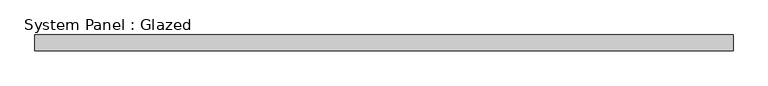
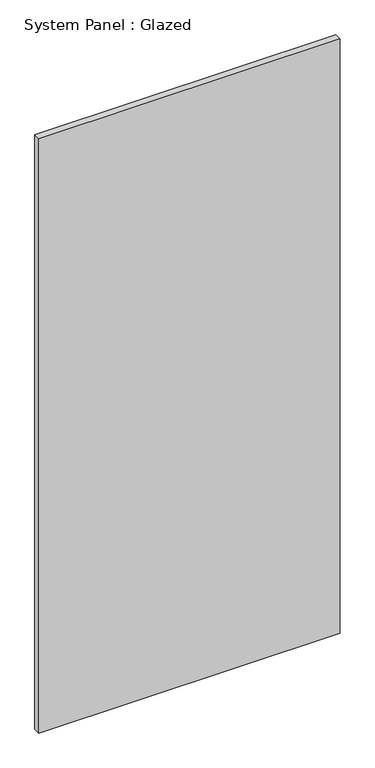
"""IFC4 building model written with IfcOpenShell, lengths in millimetres: plate geometry, System Panel : Glazed."""

import ifcopenshell
import ifcopenshell.guid

model = None  # the IFC model being written
_history = None  # IfcOwnerHistory: only IFC2X3 demands one
_inside = {}  # id of a spatial element -> (the spatial element, [elements in it])
_under = {}  # id of a project, library or spatial element -> (it, [spatial elements below it])
_declared = {}  # id of a project -> (the project, [libraries it declares])
_typed = {}  # id of a type object -> (the type object, [elements of that type])
_made_of = {}  # id of a material, layer set ... -> (it, [elements and type objects made of it])


def new_model(schema):
    """Start an empty IFC model of exactly this schema.

    Asked for "IFC4X3", IfcOpenShell would pick the latest addendum, in which some entities
    have other attributes; the version numbers below select the first issue.
    IFC2X3 requires an IfcOwnerHistory on every rooted entity: one is made here for all.
    """
    global model, _history
    if schema == "IFC4X3":
        model = ifcopenshell.file(schema_version=(4, 3, 0, 0))
    else:
        model = ifcopenshell.file(schema=schema)
    _inside.clear()
    _under.clear()
    _declared.clear()
    _typed.clear()
    _made_of.clear()
    _history = None
    if model.schema == "IFC2X3":
        org = make("IfcOrganization", Name="unknown")
        user = make(
            "IfcPersonAndOrganization",
            ThePerson=make("IfcPerson", FamilyName="unknown"),
            TheOrganization=org,
        )
        app = make(
            "IfcApplication",
            ApplicationDeveloper=org,
            Version="unknown",
            ApplicationFullName="unknown",
            ApplicationIdentifier="unknown",
        )
        _history = make(
            "IfcOwnerHistory",
            OwningUser=user,
            OwningApplication=app,
            ChangeAction="ADDED",
            CreationDate=0,
        )
    return model


def make(cls, **values):
    """One entity of the class cls with the attributes given. An attribute that is None is left unset."""
    return model.create_entity(
        cls, **{name: value for name, value in values.items() if value is not None}
    )


def rooted(cls, **values):
    """An entity with a GlobalId (a new one), such as an element, a storey or a relation."""
    return make(cls, GlobalId=ifcopenshell.guid.new(), OwnerHistory=_history, **values)


def si_unit(unit_type, name, prefix=None):
    """IfcSIUnit, for example si_unit("LENGTHUNIT", "METRE", prefix="MILLI")."""
    return make("IfcSIUnit", UnitType=unit_type, Prefix=prefix, Name=name)


def assignment(units):
    """IfcUnitAssignment: the units of a project."""
    return None if units is None else make("IfcUnitAssignment", Units=units)


def point(xyz):
    """IfcCartesianPoint."""
    return None if xyz is None else make("IfcCartesianPoint", Coordinates=xyz)


def direction(xyz):
    """IfcDirection."""
    return None if xyz is None else make("IfcDirection", DirectionRatios=xyz)


def frame(location, z_axis=None, x_axis=None):
    """IfcAxis2Placement3D, a coordinate frame: its origin and axes. An axis left out is left unset."""
    return make(
        "IfcAxis2Placement3D",
        Location=point(location),
        Axis=direction(z_axis),
        RefDirection=direction(x_axis),
    )


def origin():
    """The frame at (0, 0, 0) with its axes left unset."""
    return frame((0.0, 0.0, 0.0))


def origin_with_axes():
    """The frame at (0, 0, 0) with the z axis (0, 0, 1) and the x axis (1, 0, 0) written out."""
    return frame((0.0, 0.0, 0.0), z_axis=(0.0, 0.0, 1.0), x_axis=(1.0, 0.0, 0.0))


def place(relative_to, where):
    """IfcLocalPlacement: puts the frame where relative to a parent placement (None: the world)."""
    return make(
        "IfcLocalPlacement", PlacementRelTo=relative_to, RelativePlacement=where
    )


def context(
    kind, dimensions, precision=None, world=None, true_north=None, identifier=None
):
    """IfcGeometricRepresentationContext, for example the 3D "Model" context."""
    return make(
        "IfcGeometricRepresentationContext",
        ContextIdentifier=identifier,
        ContextType=kind,
        CoordinateSpaceDimension=dimensions,
        Precision=precision,
        WorldCoordinateSystem=world,
        TrueNorth=true_north,
    )


def project(units=None, contexts=None):
    """IfcProject with its units and contexts."""
    return rooted(
        "IfcProject",
        Name="project",
        RepresentationContexts=contexts,
        UnitsInContext=assignment(units),
    )


def spatial(cls, under=None, at=None, **own):
    """A site, building, storey or space (cls), placed at a placement, below another one or the project."""
    s = rooted(cls, ObjectPlacement=at, **own)
    if under is not None:
        _under.setdefault(under.id(), (under, []))[1].append(s)
    return s


def polyline(points):
    """IfcPolyline through the points."""
    return make("IfcPolyline", Points=[point(p) for p in points])


def outline(outer, holes=None, kind="AREA"):
    """IfcArbitraryClosedProfileDef: a profile drawn as a closed curve; with holes, ...WithVoids."""
    if holes is None:
        return make("IfcArbitraryClosedProfileDef", ProfileType=kind, OuterCurve=outer)
    return make(
        "IfcArbitraryProfileDefWithVoids",
        ProfileType=kind,
        OuterCurve=outer,
        InnerCurves=holes,
    )


def extrude(swept, where, along, depth):
    """IfcExtrudedAreaSolid: the profile swept, set in the frame where, extruded along a direction by depth."""
    return make(
        "IfcExtrudedAreaSolid",
        SweptArea=swept,
        Position=where,
        ExtrudedDirection=direction(along),
        Depth=depth,
    )


def shape(context_of_items, identifier, shape_type, items):
    """IfcShapeRepresentation: the items that make up one representation, for example the "Body"."""
    return make(
        "IfcShapeRepresentation",
        ContextOfItems=context_of_items,
        RepresentationIdentifier=identifier,
        RepresentationType=shape_type,
        Items=items,
    )


def source(mapping_origin, context_of_items, identifier, shape_type, items):
    """IfcRepresentationMap: a shape defined once, which mapped items show again and again."""
    return make(
        "IfcRepresentationMap",
        MappingOrigin=mapping_origin,
        MappedRepresentation=shape(context_of_items, identifier, shape_type, items),
    )


def transform(
    local_origin,
    x_axis=None,
    y_axis=None,
    z_axis=None,
    scale=None,
    scale2=None,
    scale3=None,
    uniform=True,
):
    """IfcCartesianTransformationOperator3D, or its non-uniform kind. x_axis, y_axis, z_axis: its Axis1, 2, 3."""
    if uniform:
        return make(
            "IfcCartesianTransformationOperator3D",
            Axis1=direction(x_axis),
            Axis2=direction(y_axis),
            LocalOrigin=point(local_origin),
            Scale=scale,
            Axis3=direction(z_axis),
        )
    return make(
        "IfcCartesianTransformationOperator3DnonUniform",
        Axis1=direction(x_axis),
        Axis2=direction(y_axis),
        LocalOrigin=point(local_origin),
        Scale=scale,
        Axis3=direction(z_axis),
        Scale2=scale2,
        Scale3=scale3,
    )


def mapped(mapping_source, mapping_target):
    """IfcMappedItem: shows the shape of a source again, moved by a transform."""
    return make(
        "IfcMappedItem", MappingSource=mapping_source, MappingTarget=mapping_target
    )


def made_of(thing, what):
    """Note that an element or type object is made of a material, layer set ...; save() writes the relation."""
    if what is not None:
        _made_of.setdefault(what.id(), (what, []))[1].append(thing)
    return thing


def element(
    cls,
    number,
    at=None,
    inside=None,
    cuts=None,
    type_object=None,
    material=None,
    context=None,
    identifier="Body",
    shape_type=None,
    held_by="IfcProductDefinitionShape",
    body=None,
    shapes=None,
    **own,
):
    """One element of the class cls, such as IfcWall. Its Tag is "e" and its number.

    at: its placement. inside: the storey or other place that contains it. cuts: it is an
    opening in that element (IfcRelVoidsElement). A single representation is given by context,
    identifier, shape_type and body (its items); several are given by shapes. held_by: the class
    of the entity that holds the representations. save() writes the other relations.
    """
    e = rooted(cls, Tag="e%d" % number, ObjectPlacement=at, **own)
    if body is not None:
        shapes = [shape(context, identifier, shape_type, body)]
    if shapes is not None:
        e.Representation = make(held_by, Representations=shapes)
    if inside is not None:
        _inside.setdefault(inside.id(), (inside, []))[1].append(e)
    if cuts is not None:
        rooted(
            "IfcRelVoidsElement", RelatingBuildingElement=cuts, RelatedOpeningElement=e
        )
    if type_object is not None:
        _typed.setdefault(type_object.id(), (type_object, []))[1].append(e)
    return made_of(e, material)


def aggregate(whole, parts):
    """IfcRelAggregates: a whole, such as a stair, and the parts it consists of."""
    return rooted("IfcRelAggregates", RelatingObject=whole, RelatedObjects=parts)


def save(model, path):
    """Write the relations noted so far, then the file.

    IfcRelAggregates (storeys below a building ...), IfcRelContainedInSpatialStructure (elements
    in a storey), IfcRelDefinesByType, IfcRelAssociatesMaterial and IfcRelDeclares: one each for
    every whole, place, type object, material and project.
    """
    for whole, parts in _under.values():
        aggregate(whole, parts)
    for where, things in _inside.values():
        rooted(
            "IfcRelContainedInSpatialStructure",
            RelatedElements=things,
            RelatingStructure=where,
        )
    for kind, things in _typed.values():
        rooted("IfcRelDefinesByType", RelatedObjects=things, RelatingType=kind)
    for what, things in _made_of.values():
        rooted("IfcRelAssociatesMaterial", RelatedObjects=things, RelatingMaterial=what)
    for by, libraries in _declared.values():
        rooted("IfcRelDeclares", RelatingContext=by, RelatedDefinitions=libraries)
    model.write(path)


def system_panel_glazed_f840508f(model_context):
    return source(origin(), model_context, "Body", "SweptSolid", [
        extrude(outline(polyline([(561.975, -44.45), (-561.975, -44.45), (-561.975, -19.05), (561.975, -19.05), (561.975, -44.45)])), origin_with_axes(), (0.0, 0.0, 1.0), 2343.15),
    ])


if __name__ == "__main__":
    model = new_model("IFC4")
    model_context = context("Model", 3, world=origin())
    ifc_project = project(units=[si_unit("LENGTHUNIT", "METRE", prefix="MILLI")], contexts=[model_context])
    site = spatial("IfcSite", under=ifc_project)
    building = spatial("IfcBuilding", under=site)
    placement = place(None, origin())
    system_panel_glazed_shape = system_panel_glazed_f840508f(model_context)
    element("IfcPlate", 1, ObjectType="System Panel : Glazed", at=placement, inside=building, context=model_context, shape_type="MappedRepresentation", body=[
        mapped(system_panel_glazed_shape, transform((0.0, 0.0, 0.0), x_axis=(1.0, 0.0, 0.0), y_axis=(0.0, 1.0, 0.0), z_axis=(0.0, 0.0, 1.0))),
    ])
    save(model, "model.ifc")
